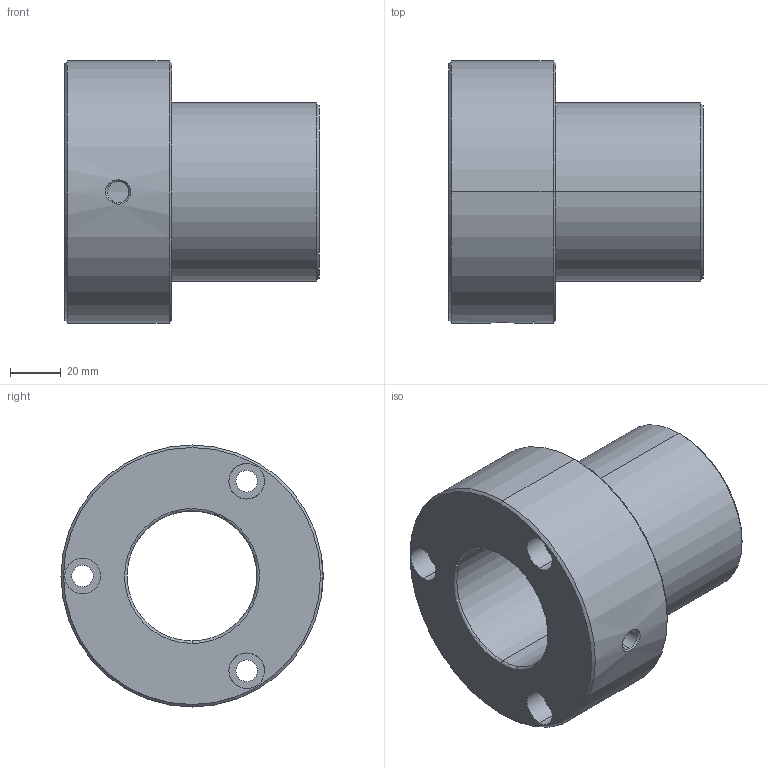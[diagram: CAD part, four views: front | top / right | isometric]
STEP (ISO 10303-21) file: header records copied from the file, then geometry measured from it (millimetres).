
FILE_DESCRIPTION(('CATIA V5 STEP Exchange'),'2;1');
FILE_NAME('C:\Users\Utente\Desktop\IO LAVORO\3D X SITO CF\X SITO\3D files 346\346-51.stp','2020-12-25T21:21:55+00:00',('none'),('none'),'CATIA Version 5 Release 20 GA (IN-10)','CATIA V5 STEP AP203','none');
FILE_SCHEMA(('CONFIG_CONTROL_DESIGN'));
Length unit declared in the file: millimetre
Products named in the file (1): 346-51
Bounding box: 100 x 103 x 103 mm (x, y, z)
Volume: 355569.6 mm3; surface area: 58485 mm2
Topology: 1 solids, 1 shells, 39 faces, 147 edges, 115 vertices
Faces by surface type: cylinder 22, cone 8, plane 7, torus 2
Entity records: 1977 total; most frequent: CARTESIAN_POINT 682, ORIENTED_EDGE 294, DIRECTION 198, EDGE_CURVE 147, AXIS2_PLACEMENT_3D 130, VERTEX_POINT 115, CIRCLE 90, EDGE_LOOP 54
